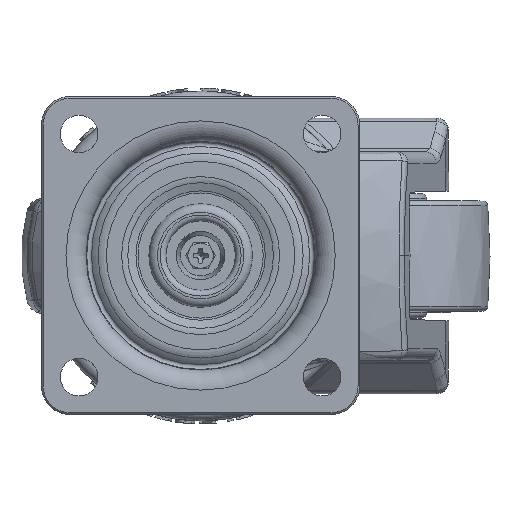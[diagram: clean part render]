
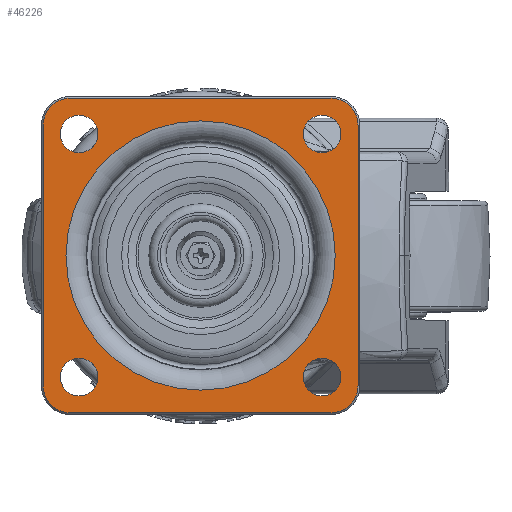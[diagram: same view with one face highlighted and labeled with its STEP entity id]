
A CAD part, top view. The second image highlights one B-rep face of the part: STEP entity #46226.
In plain terms, the highlighted planar face has unit normal (0, 0, 1).
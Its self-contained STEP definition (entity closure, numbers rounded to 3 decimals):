
#2853=CIRCLE('',#49839,4.7);
#2855=CIRCLE('',#49843,4.7);
#2857=CIRCLE('',#49847,4.7);
#2858=CIRCLE('',#49850,4.7);
#2859=CIRCLE('',#49855,3.25);
#2860=CIRCLE('',#49856,3.25);
#2861=CIRCLE('',#49857,3.25);
#2862=CIRCLE('',#49858,3.25);
#2863=CIRCLE('',#49859,23.263);
#4082=FACE_BOUND('',#11745,.T.);
#4083=FACE_BOUND('',#11746,.T.);
#4084=FACE_BOUND('',#11747,.T.);
#4085=FACE_BOUND('',#11748,.T.);
#4086=FACE_BOUND('',#11749,.T.);
#8932=FACE_OUTER_BOUND('',#11744,.T.);
#11744=EDGE_LOOP('',(#39898,#39899,#39900,#39901,#39902,#39903,#39904,#39905));
#11745=EDGE_LOOP('',(#39906));
#11746=EDGE_LOOP('',(#39907));
#11747=EDGE_LOOP('',(#39908));
#11748=EDGE_LOOP('',(#39909));
#11749=EDGE_LOOP('',(#39910));
#14051=LINE('',#101915,#16348);
#14055=LINE('',#101927,#16352);
#14059=LINE('',#101938,#16356);
#14063=LINE('',#101947,#16360);
#16348=VECTOR('',#59299,10.);
#16352=VECTOR('',#59311,10.);
#16356=VECTOR('',#59323,10.);
#16360=VECTOR('',#59333,10.);
#20328=VERTEX_POINT('',#101912);
#20329=VERTEX_POINT('',#101914);
#20331=VERTEX_POINT('',#101919);
#20333=VERTEX_POINT('',#101925);
#20335=VERTEX_POINT('',#101931);
#20336=VERTEX_POINT('',#101936);
#20337=VERTEX_POINT('',#101941);
#20338=VERTEX_POINT('',#101945);
#20339=VERTEX_POINT('',#101957);
#20340=VERTEX_POINT('',#101959);
#20341=VERTEX_POINT('',#101961);
#20342=VERTEX_POINT('',#101963);
#20343=VERTEX_POINT('',#101965);
#26849=EDGE_CURVE('',#20328,#20329,#14051,.T.);
#26852=EDGE_CURVE('',#20331,#20328,#2853,.T.);
#26855=EDGE_CURVE('',#20333,#20331,#14055,.T.);
#26858=EDGE_CURVE('',#20335,#20333,#2855,.T.);
#26861=EDGE_CURVE('',#20336,#20335,#14059,.T.);
#26864=EDGE_CURVE('',#20337,#20336,#2857,.T.);
#26866=EDGE_CURVE('',#20338,#20337,#14063,.T.);
#26867=EDGE_CURVE('',#20329,#20338,#2858,.T.);
#26871=EDGE_CURVE('',#20339,#20339,#2859,.T.);
#26872=EDGE_CURVE('',#20340,#20340,#2860,.T.);
#26873=EDGE_CURVE('',#20341,#20341,#2861,.T.);
#26874=EDGE_CURVE('',#20342,#20342,#2862,.T.);
#26875=EDGE_CURVE('',#20343,#20343,#2863,.T.);
#39898=ORIENTED_EDGE('',*,*,#26849,.F.);
#39899=ORIENTED_EDGE('',*,*,#26852,.F.);
#39900=ORIENTED_EDGE('',*,*,#26855,.F.);
#39901=ORIENTED_EDGE('',*,*,#26858,.F.);
#39902=ORIENTED_EDGE('',*,*,#26861,.F.);
#39903=ORIENTED_EDGE('',*,*,#26864,.F.);
#39904=ORIENTED_EDGE('',*,*,#26866,.F.);
#39905=ORIENTED_EDGE('',*,*,#26867,.F.);
#39906=ORIENTED_EDGE('',*,*,#26871,.T.);
#39907=ORIENTED_EDGE('',*,*,#26872,.T.);
#39908=ORIENTED_EDGE('',*,*,#26873,.T.);
#39909=ORIENTED_EDGE('',*,*,#26874,.T.);
#39910=ORIENTED_EDGE('',*,*,#26875,.F.);
#40883=PLANE('',#49854);
#46226=ADVANCED_FACE('',(#8932,#4082,#4083,#4084,#4085,#4086),#40883,.T.);
#49839=AXIS2_PLACEMENT_3D('',#101921,#59304,#59305);
#49843=AXIS2_PLACEMENT_3D('',#101933,#59316,#59317);
#49847=AXIS2_PLACEMENT_3D('',#101943,#59328,#59329);
#49850=AXIS2_PLACEMENT_3D('',#101949,#59336,#59337);
#49854=AXIS2_PLACEMENT_3D('',#101956,#59347,#59348);
#49855=AXIS2_PLACEMENT_3D('',#101958,#59349,#59350);
#49856=AXIS2_PLACEMENT_3D('',#101960,#59351,#59352);
#49857=AXIS2_PLACEMENT_3D('',#101962,#59353,#59354);
#49858=AXIS2_PLACEMENT_3D('',#101964,#59355,#59356);
#49859=AXIS2_PLACEMENT_3D('',#101966,#59357,#59358);
#59299=DIRECTION('',(1.,0.,0.));
#59304=DIRECTION('center_axis',(0.,0.,-1.));
#59305=DIRECTION('ref_axis',(0.,1.,0.));
#59311=DIRECTION('',(0.,1.,0.));
#59316=DIRECTION('center_axis',(0.,0.,-1.));
#59317=DIRECTION('ref_axis',(-1.,0.,0.));
#59323=DIRECTION('',(-1.,0.,0.));
#59328=DIRECTION('center_axis',(0.,0.,-1.));
#59329=DIRECTION('ref_axis',(0.,-1.,0.));
#59333=DIRECTION('',(0.,-1.,0.));
#59336=DIRECTION('center_axis',(0.,0.,-1.));
#59337=DIRECTION('ref_axis',(1.,0.,0.));
#59347=DIRECTION('center_axis',(0.,0.,1.));
#59348=DIRECTION('ref_axis',(1.,0.,0.));
#59349=DIRECTION('center_axis',(0.,0.,-1.));
#59350=DIRECTION('ref_axis',(-1.,0.,0.));
#59351=DIRECTION('center_axis',(0.,0.,-1.));
#59352=DIRECTION('ref_axis',(-1.,0.,0.));
#59353=DIRECTION('center_axis',(0.,0.,-1.));
#59354=DIRECTION('ref_axis',(-1.,0.,0.));
#59355=DIRECTION('center_axis',(0.,0.,-1.));
#59356=DIRECTION('ref_axis',(-1.,0.,0.));
#59357=DIRECTION('center_axis',(0.,0.,1.));
#59358=DIRECTION('ref_axis',(1.,0.,0.));
#101912=CARTESIAN_POINT('',(-22.5,27.2,0.));
#101914=CARTESIAN_POINT('',(22.5,27.2,0.));
#101915=CARTESIAN_POINT('',(-11.25,27.2,0.));
#101919=CARTESIAN_POINT('',(-27.2,22.5,0.));
#101921=CARTESIAN_POINT('Origin',(-22.5,22.5,0.));
#101925=CARTESIAN_POINT('',(-27.2,-22.5,0.));
#101927=CARTESIAN_POINT('',(-27.2,-11.25,0.));
#101931=CARTESIAN_POINT('',(-22.5,-27.2,0.));
#101933=CARTESIAN_POINT('Origin',(-22.5,-22.5,0.));
#101936=CARTESIAN_POINT('',(22.5,-27.2,0.));
#101938=CARTESIAN_POINT('',(11.25,-27.2,0.));
#101941=CARTESIAN_POINT('',(27.2,-22.5,0.));
#101943=CARTESIAN_POINT('Origin',(22.5,-22.5,0.));
#101945=CARTESIAN_POINT('',(27.2,22.5,0.));
#101947=CARTESIAN_POINT('',(27.2,11.25,0.));
#101949=CARTESIAN_POINT('Origin',(22.5,22.5,0.));
#101956=CARTESIAN_POINT('Origin',(0.,0.,0.));
#101957=CARTESIAN_POINT('',(-17.75,21.,0.));
#101958=CARTESIAN_POINT('Origin',(-21.,21.,0.));
#101959=CARTESIAN_POINT('',(24.25,21.,0.));
#101960=CARTESIAN_POINT('Origin',(21.,21.,0.));
#101961=CARTESIAN_POINT('',(-17.75,-21.,0.));
#101962=CARTESIAN_POINT('Origin',(-21.,-21.,0.));
#101963=CARTESIAN_POINT('',(24.25,-21.,0.));
#101964=CARTESIAN_POINT('Origin',(21.,-21.,0.));
#101965=CARTESIAN_POINT('',(-23.263,0.,0.));
#101966=CARTESIAN_POINT('Origin',(0.,0.,0.));
